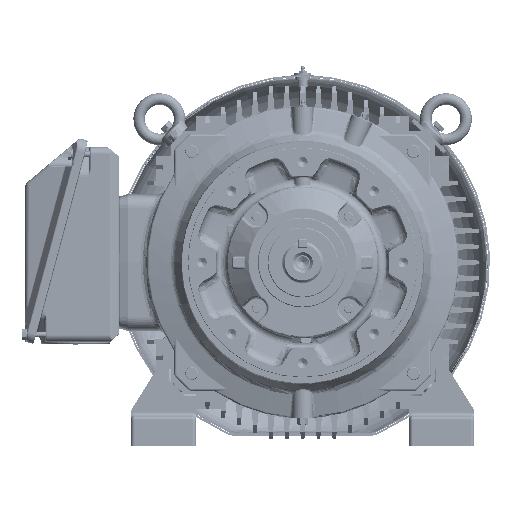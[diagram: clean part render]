
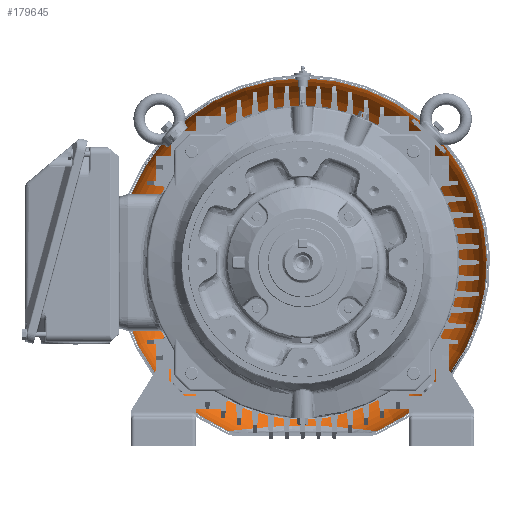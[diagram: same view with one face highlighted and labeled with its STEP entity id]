
A CAD part, front view. The second image highlights one B-rep face of the part: STEP entity #179645.
In plain terms, the highlighted toroidal (fillet/blend) face has major radius 180.5 mm and minor radius 75 mm.
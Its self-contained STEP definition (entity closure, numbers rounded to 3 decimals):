
#2143=TOROIDAL_SURFACE('',#194354,180.5,75.);
#5623=B_SPLINE_CURVE_WITH_KNOTS('',3,(#342907,#342908,#342909,#342910,#342911,
#342912,#342913,#342914,#342915,#342916,#342917,#342918,#342919,#342920,
#342921,#342922,#342923,#342924,#342925,#342926,#342927,#342928,#342929,
#342930,#342931,#342932,#342933,#342934,#342935,#342936,#342937,#342938,
#342939,#342940,#342941,#342942,#342943,#342944,#342945,#342946,#342947,
#342948,#342949,#342950,#342951,#342952,#342953,#342954,#342955,#342956,
#342957,#342958,#342959,#342960,#342961,#342962,#342963,#342964,#342965,
#342966,#342967,#342968,#342969,#342970,#342971,#342972,#342973,#342974,
#342975,#342976,#342977,#342978,#342979,#342980,#342981,#342982,#342983,
#342984,#342985,#342986,#342987,#342988,#342989,#342990,#342991),
 .UNSPECIFIED.,.F.,.F.,(4,1,1,1,1,1,1,1,1,1,1,1,1,1,1,1,1,1,1,1,1,1,1,1,
1,1,1,1,1,1,1,1,1,1,1,1,1,1,1,1,1,1,1,1,1,1,1,1,1,1,1,1,1,1,1,1,1,1,1,1,
1,1,1,1,1,1,1,1,1,1,1,1,1,1,1,1,1,1,1,1,1,1,4),(0.,0.031,0.063,0.078,
0.094,0.102,0.109,0.117,0.121,0.123,0.125,0.127,
0.129,0.133,0.141,0.148,0.156,0.172,0.188,0.203,
0.219,0.227,0.234,0.242,0.246,0.25,0.254,0.258,
0.266,0.281,0.297,0.313,0.344,0.359,0.367,0.375,0.383,
0.391,0.406,0.438,0.469,0.5,0.531,0.563,0.594,0.609,0.617,
0.625,0.633,0.641,0.656,0.688,0.703,0.719,0.734,0.742,
0.746,0.75,0.754,0.758,0.766,0.773,0.781,0.797,
0.813,0.828,0.844,0.852,0.859,0.867,0.871,0.873,
0.875,0.877,0.879,0.883,0.891,0.898,0.906,0.922,
0.938,0.969,1.),.UNSPECIFIED.);
#88921=ORIENTED_EDGE('',*,*,#119391,.F.);
#88922=ORIENTED_EDGE('',*,*,#119392,.T.);
#88923=ORIENTED_EDGE('',*,*,#119388,.T.);
#119388=EDGE_CURVE('',#155420,#155417,#5623,.T.);
#119391=EDGE_CURVE('',#155421,#155421,#126254,.T.);
#119392=EDGE_CURVE('',#155417,#155420,#126255,.T.);
#126254=CIRCLE('',#194355,218.);
#126255=CIRCLE('',#194356,255.5);
#138218=EDGE_LOOP('',(#88921));
#138219=EDGE_LOOP('',(#88922,#88923));
#155417=VERTEX_POINT('',#342515);
#155420=VERTEX_POINT('',#342772);
#155421=VERTEX_POINT('',#342998);
#167775=FACE_BOUND('',#138218,.T.);
#167776=FACE_BOUND('',#138219,.T.);
#179645=ADVANCED_FACE('',(#167775,#167776),#2143,.F.);
#194354=AXIS2_PLACEMENT_3D('',#342996,#238282,#238283);
#194355=AXIS2_PLACEMENT_3D('',#342997,#238284,#238285);
#194356=AXIS2_PLACEMENT_3D('',#342999,#238286,#238287);
#238282=DIRECTION('',(0.,-1.,0.));
#238283=DIRECTION('',(1.,0.,0.));
#238284=DIRECTION('',(0.,-1.,0.));
#238285=DIRECTION('',(1.,0.,0.));
#238286=DIRECTION('',(0.,-1.,0.));
#238287=DIRECTION('',(0.,0.,-1.));
#342515=CARTESIAN_POINT('',(102.85,649.338,-233.885));
#342772=CARTESIAN_POINT('',(-102.85,649.338,-233.885));
#342907=CARTESIAN_POINT('',(-102.85,649.338,-233.885));
#342908=CARTESIAN_POINT('',(-102.85,652.011,-233.885));
#342909=CARTESIAN_POINT('',(-102.314,657.292,-233.809));
#342910=CARTESIAN_POINT('',(-100.336,663.655,-233.56));
#342911=CARTESIAN_POINT('',(-97.994,668.569,-233.281));
#342912=CARTESIAN_POINT('',(-96.219,671.559,-233.072));
#342913=CARTESIAN_POINT('',(-94.618,673.9,-232.885));
#342914=CARTESIAN_POINT('',(-93.327,675.63,-232.734));
#342915=CARTESIAN_POINT('',(-92.179,677.046,-232.6));
#342916=CARTESIAN_POINT('',(-91.332,678.031,-232.5));
#342917=CARTESIAN_POINT('',(-90.846,678.581,-232.443));
#342918=CARTESIAN_POINT('',(-90.451,679.018,-232.396));
#342919=CARTESIAN_POINT('',(-90.147,679.35,-232.36));
#342920=CARTESIAN_POINT('',(-89.704,679.825,-232.307));
#342921=CARTESIAN_POINT('',(-88.933,680.631,-232.216));
#342922=CARTESIAN_POINT('',(-87.792,681.769,-232.082));
#342923=CARTESIAN_POINT('',(-86.375,683.096,-231.917));
#342924=CARTESIAN_POINT('',(-84.419,684.819,-231.691));
#342925=CARTESIAN_POINT('',(-81.854,686.883,-231.4));
#342926=CARTESIAN_POINT('',(-78.587,689.222,-231.041));
#342927=CARTESIAN_POINT('',(-75.14,691.423,-230.675));
#342928=CARTESIAN_POINT('',(-72.121,693.146,-230.364));
#342929=CARTESIAN_POINT('',(-69.62,694.46,-230.113));
#342930=CARTESIAN_POINT('',(-67.705,695.412,-229.924));
#342931=CARTESIAN_POINT('',(-66.068,696.183,-229.764));
#342932=CARTESIAN_POINT('',(-64.754,696.777,-229.637));
#342933=CARTESIAN_POINT('',(-63.713,697.234,-229.538));
#342934=CARTESIAN_POINT('',(-62.835,697.609,-229.454));
#342935=CARTESIAN_POINT('',(-61.6,698.125,-229.338));
#342936=CARTESIAN_POINT('',(-59.451,698.987,-229.138));
#342937=CARTESIAN_POINT('',(-56.324,700.148,-228.856));
#342938=CARTESIAN_POINT('',(-52.511,701.419,-228.531));
#342939=CARTESIAN_POINT('',(-47.337,702.964,-228.116));
#342940=CARTESIAN_POINT('',(-42.035,704.289,-227.735));
#342941=CARTESIAN_POINT('',(-37.267,705.277,-227.434));
#342942=CARTESIAN_POINT('',(-34.523,705.792,-227.272));
#342943=CARTESIAN_POINT('',(-32.405,706.161,-227.154));
#342944=CARTESIAN_POINT('',(-30.434,706.481,-227.048));
#342945=CARTESIAN_POINT('',(-27.754,706.886,-226.913));
#342946=CARTESIAN_POINT('',(-23.083,707.51,-226.699));
#342947=CARTESIAN_POINT('',(-16.376,708.184,-226.458));
#342948=CARTESIAN_POINT('',(-8.279,708.661,-226.287));
#342949=CARTESIAN_POINT('',(-0.066,708.82,-226.232));
#342950=CARTESIAN_POINT('',(8.187,708.665,-226.286));
#342951=CARTESIAN_POINT('',(16.301,708.189,-226.457));
#342952=CARTESIAN_POINT('',(23.027,707.516,-226.697));
#342953=CARTESIAN_POINT('',(27.712,706.892,-226.911));
#342954=CARTESIAN_POINT('',(30.399,706.487,-227.047));
#342955=CARTESIAN_POINT('',(32.379,706.166,-227.152));
#342956=CARTESIAN_POINT('',(34.489,705.798,-227.27));
#342957=CARTESIAN_POINT('',(37.228,705.285,-227.431));
#342958=CARTESIAN_POINT('',(41.986,704.301,-227.731));
#342959=CARTESIAN_POINT('',(47.28,702.979,-228.111));
#342960=CARTESIAN_POINT('',(52.449,701.438,-228.526));
#342961=CARTESIAN_POINT('',(56.259,700.17,-228.851));
#342962=CARTESIAN_POINT('',(59.385,699.012,-229.132));
#342963=CARTESIAN_POINT('',(61.534,698.151,-229.332));
#342964=CARTESIAN_POINT('',(62.769,697.637,-229.448));
#342965=CARTESIAN_POINT('',(63.647,697.262,-229.532));
#342966=CARTESIAN_POINT('',(64.687,696.807,-229.631));
#342967=CARTESIAN_POINT('',(66.,696.214,-229.757));
#342968=CARTESIAN_POINT('',(67.636,695.446,-229.917));
#342969=CARTESIAN_POINT('',(69.551,694.496,-230.106));
#342970=CARTESIAN_POINT('',(72.052,693.184,-230.357));
#342971=CARTESIAN_POINT('',(75.072,691.462,-230.669));
#342972=CARTESIAN_POINT('',(78.525,689.26,-231.037));
#342973=CARTESIAN_POINT('',(81.799,686.92,-231.397));
#342974=CARTESIAN_POINT('',(84.374,684.851,-231.689));
#342975=CARTESIAN_POINT('',(86.338,683.124,-231.915));
#342976=CARTESIAN_POINT('',(87.762,681.794,-232.081));
#342977=CARTESIAN_POINT('',(88.909,680.652,-232.215));
#342978=CARTESIAN_POINT('',(89.685,679.843,-232.306));
#342979=CARTESIAN_POINT('',(90.13,679.367,-232.358));
#342980=CARTESIAN_POINT('',(90.437,679.033,-232.394));
#342981=CARTESIAN_POINT('',(90.832,678.597,-232.44));
#342982=CARTESIAN_POINT('',(91.319,678.049,-232.497));
#342983=CARTESIAN_POINT('',(92.166,677.066,-232.596));
#342984=CARTESIAN_POINT('',(93.315,675.652,-232.73));
#342985=CARTESIAN_POINT('',(94.607,673.925,-232.881));
#342986=CARTESIAN_POINT('',(96.21,671.587,-233.067));
#342987=CARTESIAN_POINT('',(97.986,668.597,-233.276));
#342988=CARTESIAN_POINT('',(100.332,663.683,-233.556));
#342989=CARTESIAN_POINT('',(102.313,657.312,-233.807));
#342990=CARTESIAN_POINT('',(102.85,652.019,-233.885));
#342991=CARTESIAN_POINT('',(102.85,649.338,-233.885));
#342996=CARTESIAN_POINT('',(0.,649.338,0.));
#342997=CARTESIAN_POINT('',(0.,714.29,0.));
#342998=CARTESIAN_POINT('',(218.,714.29,0.));
#342999=CARTESIAN_POINT('',(0.,649.338,0.));
